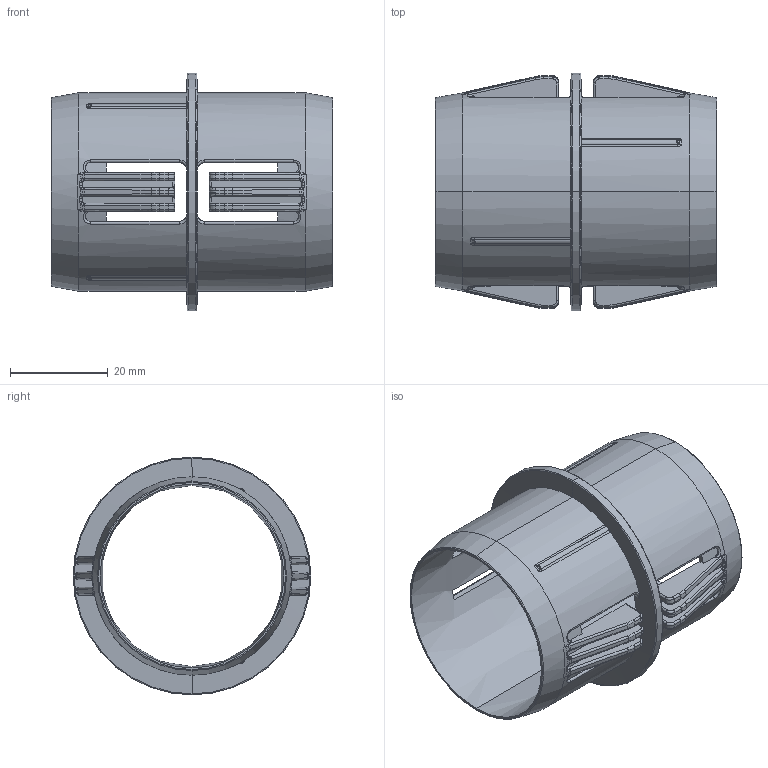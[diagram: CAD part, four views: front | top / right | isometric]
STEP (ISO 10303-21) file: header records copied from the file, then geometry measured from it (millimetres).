
FILE_DESCRIPTION (( 'STEP AP214' ), '1' );
FILE_NAME ('KP_CC-54.step', '2023-03-06T07:57:51', ( '' ), ( '' ), 'SwSTEP 2.0', 'SolidWorks 2022', '' );
FILE_SCHEMA (( 'AUTOMOTIVE_DESIGN' ));
Length unit declared in the file: millimetre
Products named in the file (1): KP_CC-54
Bounding box: 57.5 x 48.5 x 48.5 mm (x, y, z)
Volume: 11876.4 mm3; surface area: 16279.8 mm2
Topology: 1 solids, 1 shells, 513 faces, 1293 edges, 778 vertices
Faces by surface type: bspline 238, cylinder 121, plane 58, cone 56, torus 40
Entity records: 20406 total; most frequent: CARTESIAN_POINT 10124, ORIENTED_EDGE 2586, DIRECTION 1593, EDGE_CURVE 1293, VERTEX_POINT 778, AXIS2_PLACEMENT_3D 670, B_SPLINE_CURVE_WITH_KNOTS 590, EDGE_LOOP 519
